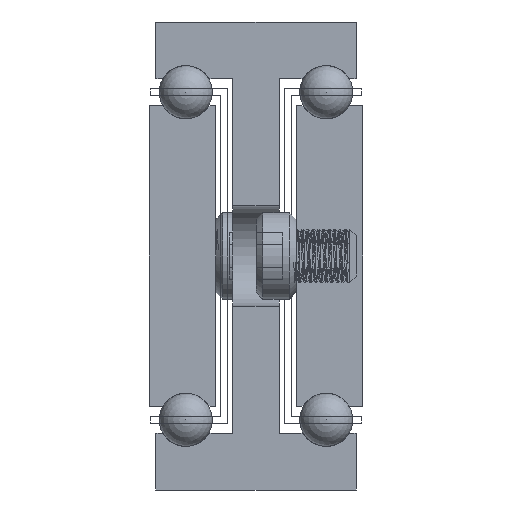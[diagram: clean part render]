
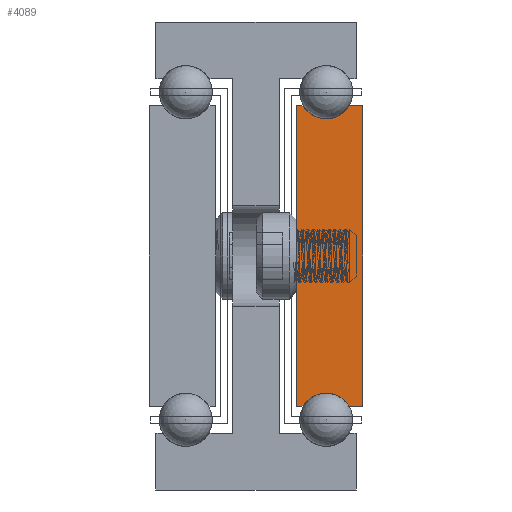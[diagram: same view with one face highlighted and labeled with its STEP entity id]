
A CAD part, front view. The second image highlights one B-rep face of the part: STEP entity #4089.
In plain terms, the highlighted planar face has unit normal (0, -1, 0).
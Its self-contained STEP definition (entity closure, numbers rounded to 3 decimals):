
#569=PLANE('',#4421);
#671=FACE_OUTER_BOUND('',#917,.T.);
#917=EDGE_LOOP('',(#3348,#3349,#3350,#3351,#3352,#3353,#3354,#3355));
#1350=LINE('',#6336,#1562);
#1353=LINE('',#6342,#1565);
#1357=LINE('',#6354,#1569);
#1360=LINE('',#6360,#1572);
#1363=LINE('',#6366,#1575);
#1367=LINE('',#6376,#1579);
#1562=VECTOR('',#5082,1.);
#1565=VECTOR('',#5087,1.);
#1569=VECTOR('',#5099,1.);
#1572=VECTOR('',#5104,1.);
#1575=VECTOR('',#5109,1.);
#1579=VECTOR('',#5121,1.);
#1737=CIRCLE('',#4412,4.);
#1739=CIRCLE('',#4418,4.);
#2094=VERTEX_POINT('',#6333);
#2095=VERTEX_POINT('',#6335);
#2097=VERTEX_POINT('',#6341);
#2099=VERTEX_POINT('',#6347);
#2101=VERTEX_POINT('',#6353);
#2103=VERTEX_POINT('',#6359);
#2105=VERTEX_POINT('',#6365);
#2107=VERTEX_POINT('',#6371);
#2656=EDGE_CURVE('',#2095,#2094,#1350,.T.);
#2659=EDGE_CURVE('',#2097,#2095,#1353,.T.);
#2662=EDGE_CURVE('',#2099,#2097,#1737,.T.);
#2665=EDGE_CURVE('',#2101,#2099,#1357,.T.);
#2668=EDGE_CURVE('',#2103,#2101,#1360,.T.);
#2671=EDGE_CURVE('',#2105,#2103,#1363,.T.);
#2674=EDGE_CURVE('',#2107,#2105,#1739,.T.);
#2677=EDGE_CURVE('',#2094,#2107,#1367,.T.);
#3348=ORIENTED_EDGE('',*,*,#2677,.T.);
#3349=ORIENTED_EDGE('',*,*,#2674,.T.);
#3350=ORIENTED_EDGE('',*,*,#2671,.T.);
#3351=ORIENTED_EDGE('',*,*,#2668,.T.);
#3352=ORIENTED_EDGE('',*,*,#2665,.T.);
#3353=ORIENTED_EDGE('',*,*,#2662,.T.);
#3354=ORIENTED_EDGE('',*,*,#2659,.T.);
#3355=ORIENTED_EDGE('',*,*,#2656,.T.);
#4089=ADVANCED_FACE('',(#671),#569,.T.);
#4412=AXIS2_PLACEMENT_3D('',#6348,#5093,#5094);
#4418=AXIS2_PLACEMENT_3D('',#6372,#5115,#5116);
#4421=AXIS2_PLACEMENT_3D('',#6378,#5124,#5125);
#5082=DIRECTION('',(0.,0.,1.));
#5087=DIRECTION('',(1.,0.,0.));
#5093=DIRECTION('center_axis',(0.,1.,0.));
#5094=DIRECTION('ref_axis',(0.866,0.,0.5));
#5099=DIRECTION('',(1.,0.,0.));
#5104=DIRECTION('',(0.,0.,-1.));
#5109=DIRECTION('',(-1.,0.,0.));
#5115=DIRECTION('center_axis',(0.,1.,0.));
#5116=DIRECTION('ref_axis',(-0.866,0.,-0.5));
#5121=DIRECTION('',(-1.,0.,0.));
#5124=DIRECTION('center_axis',(0.,-1.,0.));
#5125=DIRECTION('ref_axis',(-1.,0.,0.));
#6333=CARTESIAN_POINT('',(3862.28,-49.782,647.5));
#6335=CARTESIAN_POINT('',(3862.28,-49.782,602.5));
#6336=CARTESIAN_POINT('',(3862.28,-49.782,647.5));
#6341=CARTESIAN_POINT('',(3860.244,-49.782,602.5));
#6342=CARTESIAN_POINT('',(3862.28,-49.782,602.5));
#6347=CARTESIAN_POINT('',(3853.316,-49.782,602.5));
#6348=CARTESIAN_POINT('Origin',(3856.78,-49.782,600.5));
#6353=CARTESIAN_POINT('',(3852.28,-49.782,602.5));
#6354=CARTESIAN_POINT('',(3853.316,-49.782,602.5));
#6359=CARTESIAN_POINT('',(3852.28,-49.782,647.5));
#6360=CARTESIAN_POINT('',(3852.28,-49.782,602.5));
#6365=CARTESIAN_POINT('',(3853.316,-49.782,647.5));
#6366=CARTESIAN_POINT('',(3852.28,-49.782,647.5));
#6371=CARTESIAN_POINT('',(3860.244,-49.782,647.5));
#6372=CARTESIAN_POINT('Origin',(3856.78,-49.782,649.5));
#6376=CARTESIAN_POINT('',(3860.244,-49.782,647.5));
#6378=CARTESIAN_POINT('Origin',(3857.286,-49.782,625.));
